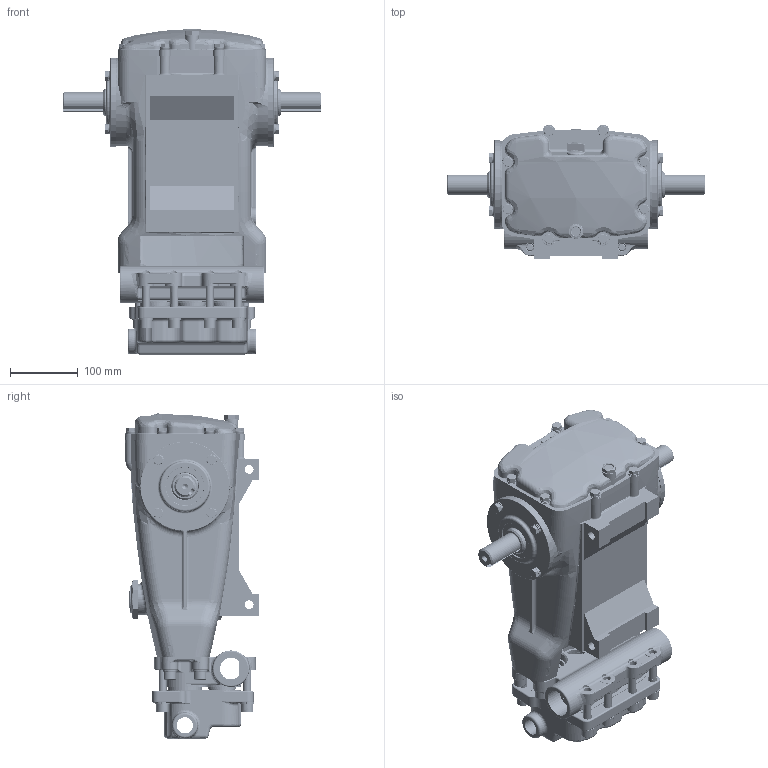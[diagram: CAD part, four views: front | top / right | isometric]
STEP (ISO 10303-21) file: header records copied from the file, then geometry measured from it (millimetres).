
FILE_DESCRIPTION (( 'STEP AP214' ), '1' );
FILE_NAME ('2530.STEP', '2013-01-08T10:53:40', ( '' ), ( '' ), 'SwSTEP 2.0', 'SolidWorks 2012', '' );
FILE_SCHEMA (( 'AUTOMOTIVE_DESIGN' ));
Length unit declared in the file: millimetre
Products named in the file (1): 2530
Bounding box: 382 x 199 x 480.95 mm (x, y, z)
Volume: 6689928.6 mm3; surface area: 1192926.2 mm2
Topology: 1 solids, 33 shells, 6844 faces, 17604 edges, 10948 vertices
Faces by surface type: cylinder 2587, plane 2023, torus 1040, bspline 774, cone 228, sphere 192
Entity records: 392514 total; most frequent: CARTESIAN_POINT 174928, ORIENTED_EDGE 34830, DIRECTION 30955, EDGE_CURVE 17415, AXIS2_PLACEMENT_3D 12076, VERTEX_POINT 10882, EDGE_LOOP 7273, FACE_OUTER_BOUND 6844
